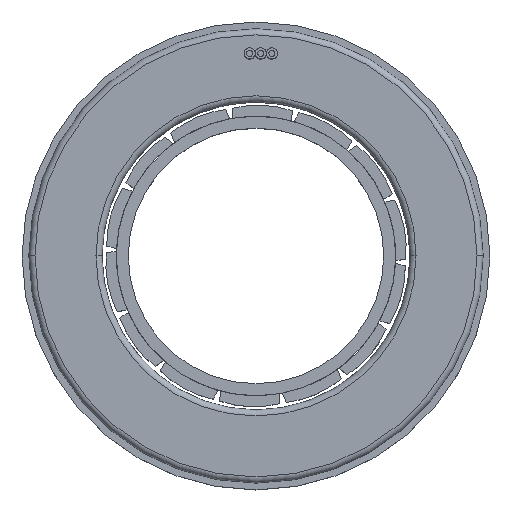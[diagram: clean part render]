
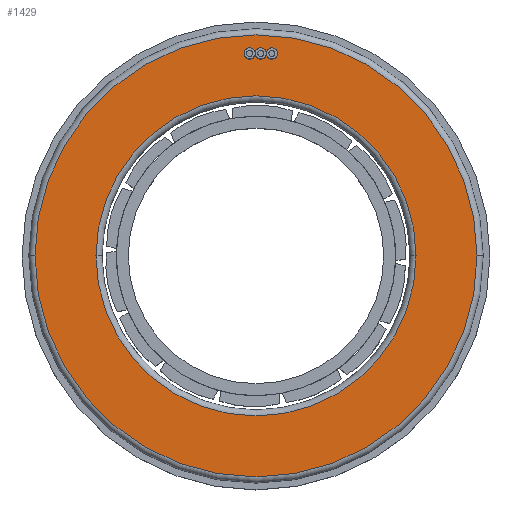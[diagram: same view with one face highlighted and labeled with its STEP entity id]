
A CAD part, top view. The second image highlights one B-rep face of the part: STEP entity #1429.
In plain terms, the highlighted planar face has unit normal (0, 0, 1) as drawn and (1, 0, 0) by its records, which use the part's own axes.
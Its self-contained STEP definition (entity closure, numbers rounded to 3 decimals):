
#89 = DIRECTION ( 'NONE',  ( 0., 0., -1. ) ) ;
#110 = CIRCLE ( 'NONE', #2921, 35.9 ) ;
#127 = EDGE_CURVE ( 'NONE', #1983, #1562, #1724, .T. ) ;
#238 = ORIENTED_EDGE ( 'NONE', *, *, #127, .T. ) ;
#473 = FACE_BOUND ( 'NONE', #2926, .T. ) ;
#648 = CIRCLE ( 'NONE', #2484, 26. ) ;
#659 = CARTESIAN_POINT ( 'NONE',  ( 6.2, 0., 35.9 ) ) ;
#683 = DIRECTION ( 'NONE',  ( 0., 0., -1. ) ) ;
#791 = DIRECTION ( 'NONE',  ( -1., 0., 0. ) ) ;
#925 = AXIS2_PLACEMENT_3D ( 'NONE', #2264, #2458, #2294 ) ;
#1019 = CARTESIAN_POINT ( 'NONE',  ( 6.2, 0., 26. ) ) ;
#1055 = DIRECTION ( 'NONE',  ( 0., 0., -1. ) ) ;
#1120 = ORIENTED_EDGE ( 'NONE', *, *, #2430, .T. ) ;
#1211 = CARTESIAN_POINT ( 'NONE',  ( 6.2, 0., 0. ) ) ;
#1429 = ADVANCED_FACE ( 'NONE', ( #473, #1571 ), #2097, .T. ) ;
#1562 = VERTEX_POINT ( 'NONE', #1698 ) ;
#1571 = FACE_OUTER_BOUND ( 'NONE', #2557, .T. ) ;
#1585 = VERTEX_POINT ( 'NONE', #2367 ) ;
#1610 = EDGE_CURVE ( 'NONE', #1562, #1983, #110, .T. ) ;
#1698 = CARTESIAN_POINT ( 'NONE',  ( 6.2, 0., -35.9 ) ) ;
#1724 = CIRCLE ( 'NONE', #2777, 35.9 ) ;
#1727 = AXIS2_PLACEMENT_3D ( 'NONE', #2607, #2164, #2378 ) ;
#1841 = ORIENTED_EDGE ( 'NONE', *, *, #1984, .T. ) ;
#1954 = CARTESIAN_POINT ( 'NONE',  ( 6.2, 0., 0. ) ) ;
#1983 = VERTEX_POINT ( 'NONE', #659 ) ;
#1984 = EDGE_CURVE ( 'NONE', #1585, #2596, #2289, .T. ) ;
#2097 = PLANE ( 'NONE',  #1727 ) ;
#2121 = ORIENTED_EDGE ( 'NONE', *, *, #1610, .T. ) ;
#2164 = DIRECTION ( 'NONE',  ( 1., 0., 0. ) ) ;
#2264 = CARTESIAN_POINT ( 'NONE',  ( 6.2, 0., 0. ) ) ;
#2289 = CIRCLE ( 'NONE', #925, 26. ) ;
#2294 = DIRECTION ( 'NONE',  ( 0., 0., -1. ) ) ;
#2367 = CARTESIAN_POINT ( 'NONE',  ( 6.2, 0., -26. ) ) ;
#2378 = DIRECTION ( 'NONE',  ( 0., 0., -1. ) ) ;
#2406 = DIRECTION ( 'NONE',  ( 1., 0., 0. ) ) ;
#2430 = EDGE_CURVE ( 'NONE', #2596, #1585, #648, .T. ) ;
#2458 = DIRECTION ( 'NONE',  ( -1., 0., 0. ) ) ;
#2484 = AXIS2_PLACEMENT_3D ( 'NONE', #1211, #791, #89 ) ;
#2502 = DIRECTION ( 'NONE',  ( 1., 0., 0. ) ) ;
#2512 = CARTESIAN_POINT ( 'NONE',  ( 6.2, 0., 0. ) ) ;
#2557 = EDGE_LOOP ( 'NONE', ( #2121, #238 ) ) ;
#2596 = VERTEX_POINT ( 'NONE', #1019 ) ;
#2607 = CARTESIAN_POINT ( 'NONE',  ( 6.2, 0., 0. ) ) ;
#2777 = AXIS2_PLACEMENT_3D ( 'NONE', #2512, #2502, #683 ) ;
#2921 = AXIS2_PLACEMENT_3D ( 'NONE', #1954, #2406, #1055 ) ;
#2926 = EDGE_LOOP ( 'NONE', ( #1841, #1120 ) ) ;
